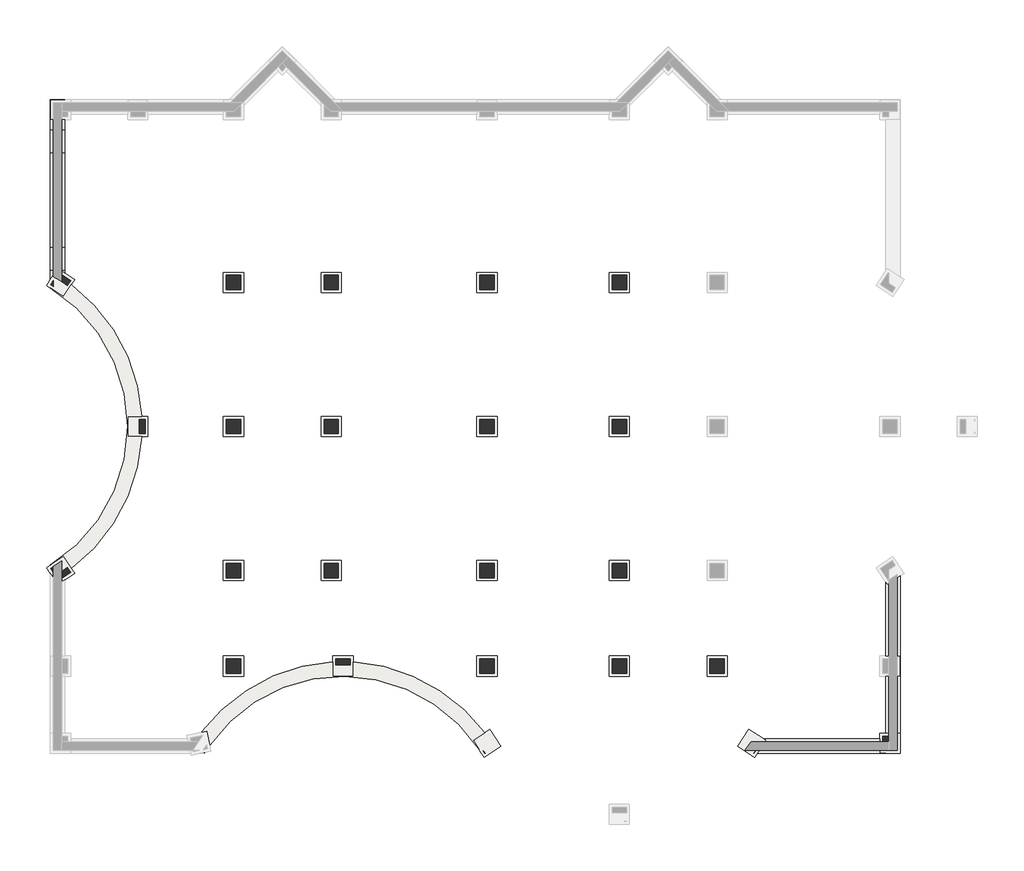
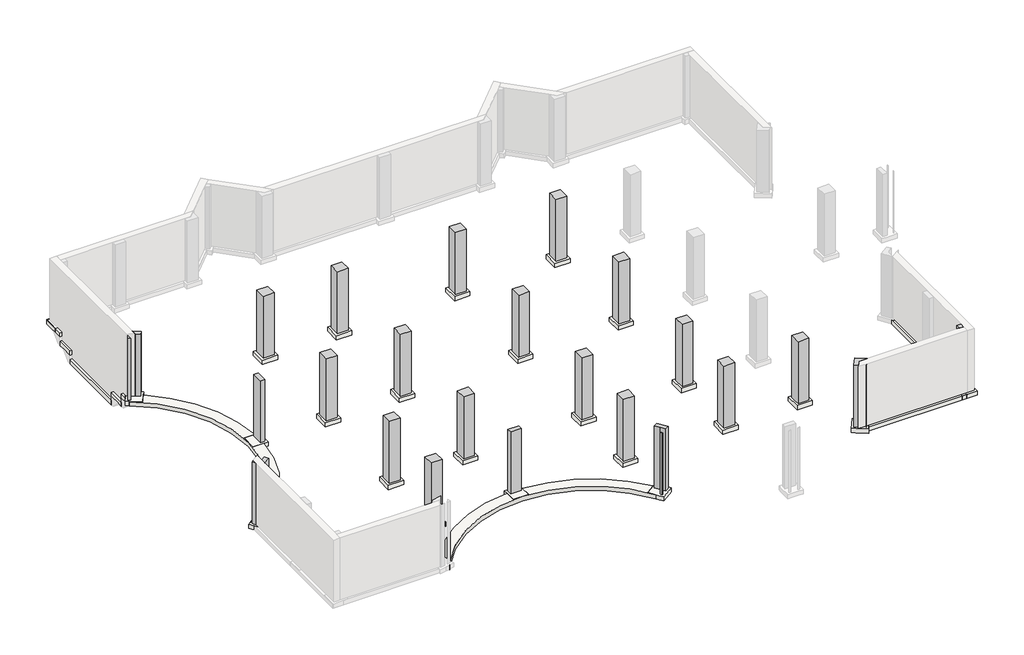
# One storey, part 2 of 3: 23 columns, 23 slabs, 5 footings.
"""IFC4 building model written with IfcOpenShell, lengths in millimetres."""

import ifcopenshell
import ifcopenshell.guid

model = None  # the IFC model being written
_history = None  # IfcOwnerHistory: only IFC2X3 demands one
_inside = {}  # id of a spatial element -> (the spatial element, [elements in it])
_under = {}  # id of a project, library or spatial element -> (it, [spatial elements below it])
_declared = {}  # id of a project -> (the project, [libraries it declares])
_typed = {}  # id of a type object -> (the type object, [elements of that type])
_made_of = {}  # id of a material, layer set ... -> (it, [elements and type objects made of it])


def new_model(schema):
    """Start an empty IFC model of exactly this schema.

    Asked for "IFC4X3", IfcOpenShell would pick the latest addendum, in which some entities
    have other attributes; the version numbers below select the first issue.
    IFC2X3 requires an IfcOwnerHistory on every rooted entity: one is made here for all.
    """
    global model, _history
    if schema == "IFC4X3":
        model = ifcopenshell.file(schema_version=(4, 3, 0, 0))
    else:
        model = ifcopenshell.file(schema=schema)
    _inside.clear()
    _under.clear()
    _declared.clear()
    _typed.clear()
    _made_of.clear()
    _history = None
    if model.schema == "IFC2X3":
        org = make("IfcOrganization", Name="unknown")
        user = make(
            "IfcPersonAndOrganization",
            ThePerson=make("IfcPerson", FamilyName="unknown"),
            TheOrganization=org,
        )
        app = make(
            "IfcApplication",
            ApplicationDeveloper=org,
            Version="unknown",
            ApplicationFullName="unknown",
            ApplicationIdentifier="unknown",
        )
        _history = make(
            "IfcOwnerHistory",
            OwningUser=user,
            OwningApplication=app,
            ChangeAction="ADDED",
            CreationDate=0,
        )
    return model


def make(cls, **values):
    """One entity of the class cls with the attributes given. An attribute that is None is left unset."""
    return model.create_entity(
        cls, **{name: value for name, value in values.items() if value is not None}
    )


def rooted(cls, **values):
    """An entity with a GlobalId (a new one), such as an element, a storey or a relation."""
    return make(cls, GlobalId=ifcopenshell.guid.new(), OwnerHistory=_history, **values)


def si_unit(unit_type, name, prefix=None):
    """IfcSIUnit, for example si_unit("LENGTHUNIT", "METRE", prefix="MILLI")."""
    return make("IfcSIUnit", UnitType=unit_type, Prefix=prefix, Name=name)


def assignment(units):
    """IfcUnitAssignment: the units of a project."""
    return None if units is None else make("IfcUnitAssignment", Units=units)


def point(xyz):
    """IfcCartesianPoint."""
    return None if xyz is None else make("IfcCartesianPoint", Coordinates=xyz)


def direction(xyz):
    """IfcDirection."""
    return None if xyz is None else make("IfcDirection", DirectionRatios=xyz)


def frame(location, z_axis=None, x_axis=None):
    """IfcAxis2Placement3D, a coordinate frame: its origin and axes. An axis left out is left unset."""
    return make(
        "IfcAxis2Placement3D",
        Location=point(location),
        Axis=direction(z_axis),
        RefDirection=direction(x_axis),
    )


def frame_2d(location, x_axis=None):
    """IfcAxis2Placement2D, a coordinate frame in the plane: its origin and x axis."""
    return make(
        "IfcAxis2Placement2D", Location=point(location), RefDirection=direction(x_axis)
    )


def origin():
    """The frame at (0, 0, 0) with its axes left unset."""
    return frame((0.0, 0.0, 0.0))


def place(relative_to, where):
    """IfcLocalPlacement: puts the frame where relative to a parent placement (None: the world)."""
    return make(
        "IfcLocalPlacement", PlacementRelTo=relative_to, RelativePlacement=where
    )


def context(
    kind, dimensions, precision=None, world=None, true_north=None, identifier=None
):
    """IfcGeometricRepresentationContext, for example the 3D "Model" context."""
    return make(
        "IfcGeometricRepresentationContext",
        ContextIdentifier=identifier,
        ContextType=kind,
        CoordinateSpaceDimension=dimensions,
        Precision=precision,
        WorldCoordinateSystem=world,
        TrueNorth=true_north,
    )


def project(units=None, contexts=None):
    """IfcProject with its units and contexts."""
    return rooted(
        "IfcProject",
        Name="project",
        RepresentationContexts=contexts,
        UnitsInContext=assignment(units),
    )


def spatial(cls, under=None, at=None, **own):
    """A site, building, storey or space (cls), placed at a placement, below another one or the project."""
    s = rooted(cls, ObjectPlacement=at, **own)
    if under is not None:
        _under.setdefault(under.id(), (under, []))[1].append(s)
    return s


def polyline(points):
    """IfcPolyline through the points."""
    return make("IfcPolyline", Points=[point(p) for p in points])


def circle_curve(where, radius):
    """IfcCircle in the frame where."""
    return make("IfcCircle", Position=where, Radius=radius)


def trimmed(basis, trim1, trim2, sense, master):
    """IfcTrimmedCurve: the piece of a basis curve between two trims."""
    return make(
        "IfcTrimmedCurve",
        BasisCurve=basis,
        Trim1=trim1,
        Trim2=trim2,
        SenseAgreement=sense,
        MasterRepresentation=master,
    )


def segment(curve, same_sense, transition):
    """IfcCompositeCurveSegment."""
    return make(
        "IfcCompositeCurveSegment",
        Transition=transition,
        SameSense=same_sense,
        ParentCurve=curve,
    )


def composite_curve(segments, self_intersect=None):
    """IfcCompositeCurve: segments joined end to end."""
    return make("IfcCompositeCurve", Segments=segments, SelfIntersect=self_intersect)


def outline(outer, holes=None, kind="AREA"):
    """IfcArbitraryClosedProfileDef: a profile drawn as a closed curve; with holes, ...WithVoids."""
    if holes is None:
        return make("IfcArbitraryClosedProfileDef", ProfileType=kind, OuterCurve=outer)
    return make(
        "IfcArbitraryProfileDefWithVoids",
        ProfileType=kind,
        OuterCurve=outer,
        InnerCurves=holes,
    )


def extrude(swept, where, along, depth):
    """IfcExtrudedAreaSolid: the profile swept, set in the frame where, extruded along a direction by depth."""
    return make(
        "IfcExtrudedAreaSolid",
        SweptArea=swept,
        Position=where,
        ExtrudedDirection=direction(along),
        Depth=depth,
    )


def faces_of(points, faces, orient=None, outer=None):
    """IfcFace entities. A face is a list of loops; a loop is a list of indices into points, from 0.

    orient and outer hold one flag for each loop. By default every Orientation is true, the
    first loop of a face is its IfcFaceOuterBound and the others are IfcFaceBound.
    """
    made = []
    for i, loops in enumerate(faces):
        bounds = []
        for j, loop in enumerate(loops):
            is_outer = j == 0 if outer is None else outer[i][j]
            bounds.append(
                make(
                    "IfcFaceOuterBound" if is_outer else "IfcFaceBound",
                    Bound=make("IfcPolyLoop", Polygon=[points[k] for k in loop]),
                    Orientation=True if orient is None else orient[i][j],
                )
            )
        made.append(make("IfcFace", Bounds=bounds))
    return made


def faceted_brep(points, faces, orient=None, outer=None, voids=None):
    """IfcFacetedBrep: a solid bounded by flat faces; with voids (closed shells), ...WithVoids."""
    shared = [point(p) for p in points]
    hull = make("IfcClosedShell", CfsFaces=faces_of(shared, faces, orient, outer))
    if voids is None:
        return make("IfcFacetedBrep", Outer=hull)
    return make(
        "IfcFacetedBrepWithVoids",
        Outer=hull,
        Voids=[
            make(cls, CfsFaces=faces_of(shared, fs, o, b)) for cls, fs, o, b in voids
        ],
    )


def shape(context_of_items, identifier, shape_type, items):
    """IfcShapeRepresentation: the items that make up one representation, for example the "Body"."""
    return make(
        "IfcShapeRepresentation",
        ContextOfItems=context_of_items,
        RepresentationIdentifier=identifier,
        RepresentationType=shape_type,
        Items=items,
    )


def source(mapping_origin, context_of_items, identifier, shape_type, items):
    """IfcRepresentationMap: a shape defined once, which mapped items show again and again."""
    return make(
        "IfcRepresentationMap",
        MappingOrigin=mapping_origin,
        MappedRepresentation=shape(context_of_items, identifier, shape_type, items),
    )


def transform(
    local_origin,
    x_axis=None,
    y_axis=None,
    z_axis=None,
    scale=None,
    scale2=None,
    scale3=None,
    uniform=True,
):
    """IfcCartesianTransformationOperator3D, or its non-uniform kind. x_axis, y_axis, z_axis: its Axis1, 2, 3."""
    if uniform:
        return make(
            "IfcCartesianTransformationOperator3D",
            Axis1=direction(x_axis),
            Axis2=direction(y_axis),
            LocalOrigin=point(local_origin),
            Scale=scale,
            Axis3=direction(z_axis),
        )
    return make(
        "IfcCartesianTransformationOperator3DnonUniform",
        Axis1=direction(x_axis),
        Axis2=direction(y_axis),
        LocalOrigin=point(local_origin),
        Scale=scale,
        Axis3=direction(z_axis),
        Scale2=scale2,
        Scale3=scale3,
    )


def mapped(mapping_source, mapping_target):
    """IfcMappedItem: shows the shape of a source again, moved by a transform."""
    return make(
        "IfcMappedItem", MappingSource=mapping_source, MappingTarget=mapping_target
    )


def made_of(thing, what):
    """Note that an element or type object is made of a material, layer set ...; save() writes the relation."""
    if what is not None:
        _made_of.setdefault(what.id(), (what, []))[1].append(thing)
    return thing


def element(
    cls,
    number,
    at=None,
    inside=None,
    cuts=None,
    type_object=None,
    material=None,
    context=None,
    identifier="Body",
    shape_type=None,
    held_by="IfcProductDefinitionShape",
    body=None,
    shapes=None,
    **own,
):
    """One element of the class cls, such as IfcWall. Its Tag is "e" and its number.

    at: its placement. inside: the storey or other place that contains it. cuts: it is an
    opening in that element (IfcRelVoidsElement). A single representation is given by context,
    identifier, shape_type and body (its items); several are given by shapes. held_by: the class
    of the entity that holds the representations. save() writes the other relations.
    """
    e = rooted(cls, Tag="e%d" % number, ObjectPlacement=at, **own)
    if body is not None:
        shapes = [shape(context, identifier, shape_type, body)]
    if shapes is not None:
        e.Representation = make(held_by, Representations=shapes)
    if inside is not None:
        _inside.setdefault(inside.id(), (inside, []))[1].append(e)
    if cuts is not None:
        rooted(
            "IfcRelVoidsElement", RelatingBuildingElement=cuts, RelatedOpeningElement=e
        )
    if type_object is not None:
        _typed.setdefault(type_object.id(), (type_object, []))[1].append(e)
    return made_of(e, material)


def aggregate(whole, parts):
    """IfcRelAggregates: a whole, such as a stair, and the parts it consists of."""
    return rooted("IfcRelAggregates", RelatingObject=whole, RelatedObjects=parts)


def save(model, path):
    """Write the relations noted so far, then the file.

    IfcRelAggregates (storeys below a building ...), IfcRelContainedInSpatialStructure (elements
    in a storey), IfcRelDefinesByType, IfcRelAssociatesMaterial and IfcRelDeclares: one each for
    every whole, place, type object, material and project.
    """
    for whole, parts in _under.values():
        aggregate(whole, parts)
    for where, things in _inside.values():
        rooted(
            "IfcRelContainedInSpatialStructure",
            RelatedElements=things,
            RelatingStructure=where,
        )
    for kind, things in _typed.values():
        rooted("IfcRelDefinesByType", RelatedObjects=things, RelatingType=kind)
    for what, things in _made_of.values():
        rooted("IfcRelAssociatesMaterial", RelatedObjects=things, RelatingMaterial=what)
    for by, libraries in _declared.values():
        rooted("IfcRelDeclares", RelatingContext=by, RelatedDefinitions=libraries)
    model.write(path)


def m_concrete_rectangular_column_762_x_762mm_e00174ba(model_context):
    return source(origin(), model_context, "Body", "SweptSolid", [
        extrude(outline(polyline([(381.0, 381.0), (381.0, -381.0), (-381.0, -381.0), (-381.0, 381.0), (381.0, 381.0)])), frame((0.0, 0.0, -4572.0), z_axis=(0.0, 0.0, 1.0), x_axis=(1.0, 0.0, 0.0)), (0.0, 0.0, 1.0), 4572.0),
    ])


def m_footing_rectangular_1067_x_1067_x_305mm_e91fa160(model_context):
    return source(origin(), model_context, "Body", "SweptSolid", [
        extrude(outline(polyline([(533.5, 533.5), (533.5, -533.5), (-533.5, -533.5), (-533.5, 533.5), (533.5, 533.5)])), frame((0.0, 0.0, -305.0), z_axis=(0.0, 0.0, 1.0), x_axis=(1.0, 0.0, 0.0)), (0.0, 0.0, 1.0), 305.0),
    ])


model = new_model("IFC4")

# Units and contexts
model_context = context("Model", 3, world=origin())
ifc_project = project(units=[si_unit("LENGTHUNIT", "METRE", prefix="MILLI")], contexts=[model_context])

# Site, building, storey
site = spatial("IfcSite", under=ifc_project)
building = spatial("IfcBuilding", under=site)
storey = spatial("IfcBuildingStorey", under=building, Name="00 T.O.FOOTING", Elevation=-4572.0)

# Columns
placement = place(None, origin())
element("IfcColumn", 1, ObjectType="M_Concrete-Rectangular-Column : 762 x 762mm", at=placement, inside=storey, context=model_context, shape_type="SweptSolid", body=[
    extrude(outline(composite_curve([segment(polyline([(683.6806742, 9192.6806742), (228.5, 8890.7479726), (228.5, 9260.5379654)]), True, "CONTINUOUS"), segment(trimmed(circle_curve(frame_2d((-4898.9611805, 16919.575)), 9216.925), [point((228.5, 9260.5379654))], [point((509.0310463, 9455.9748948))], True, "CARTESIAN"), True, "CONTINUOUS"), segment(polyline([(509.0310463, 9455.9748948), (683.6806742, 9192.6806742)]), True, "CONTINUOUS")], self_intersect=False)), frame((0.0, 0.0, -4572.0), z_axis=(0.0, 0.0, 1.0), x_axis=(1.0, 0.0, 0.0)), (0.0, 0.0, 1.0), 4572.0),
    extrude(outline(polyline([(-228.5, 9189.3349146), (-372.5306742, 9406.4693258), (-228.5, 9502.0084667), (-228.5, 9189.3349146)])), frame((0.0, 0.0, -4572.0), z_axis=(0.0, 0.0, 1.0), x_axis=(1.0, 0.0, 0.0)), (0.0, 0.0, 1.0), 4572.0),
])
element("IfcColumn", 2, ObjectType="M_Concrete-Rectangular-Column : 762 x 762mm", at=placement, inside=storey, context=model_context, shape_type="SweptSolid", body=[
    extrude(outline(composite_curve([segment(polyline([(4625.575, 17300.575), (4625.575, 16538.575), (4310.0857547, 16538.575)]), True, "CONTINUOUS"), segment(trimmed(circle_curve(frame_2d((-4898.9611805, 16919.575)), 9216.925), [point((4310.0857547, 16538.575))], [point((4310.0857547, 17300.575))], True, "CARTESIAN"), True, "CONTINUOUS"), segment(polyline([(4310.0857547, 17300.575), (4625.575, 17300.575)]), True, "CONTINUOUS")], self_intersect=False)), frame((0.0, 0.0, -4572.0), z_axis=(0.0, 0.0, 1.0), x_axis=(1.0, 0.0, 0.0)), (0.0, 0.0, 1.0), 4572.0),
])
element("IfcColumn", 3, ObjectType="M_Concrete-Rectangular-Column : 762 x 762mm", at=placement, inside=storey, context=model_context, shape_type="SweptSolid", body=[
    extrude(outline(polyline([(-228.5, 24337.1415333), (-372.5306742, 24432.6806742), (-228.5, 24649.8150854), (-228.5, 24337.1415333)])), frame((0.0, 0.0, -4572.0), z_axis=(0.0, 0.0, 1.0), x_axis=(1.0, 0.0, 0.0)), (0.0, 0.0, 1.0), 4572.0),
    extrude(outline(composite_curve([segment(polyline([(683.6806742, 24646.4693258), (509.0310463, 24383.1751052)]), True, "CONTINUOUS"), segment(trimmed(circle_curve(frame_2d((-4898.9611805, 16919.575)), 9216.925), [point((509.0310463, 24383.1751052))], [point((228.5, 24578.6120346))], True, "CARTESIAN"), True, "CONTINUOUS"), segment(polyline([(228.5, 24578.6120346), (228.5, 24948.4020274), (683.6806742, 24646.4693258)]), True, "CONTINUOUS")], self_intersect=False)), frame((0.0, 0.0, -4572.0), z_axis=(0.0, 0.0, 1.0), x_axis=(1.0, 0.0, 0.0)), (0.0, 0.0, 1.0), 4572.0),
])
element("IfcColumn", 4, ObjectType="M_Concrete-Rectangular-Column : 762 x 762mm", at=placement, inside=storey, context=model_context, shape_type="SweptSolid", body=[
    extrude(outline(polyline([(43646.575, 536.575), (43955.9050515, 536.575), (43955.9050515, 228.5), (43646.575, 228.5), (43646.575, 536.575)])), frame((0.0, 0.0, -4572.0), z_axis=(0.0, 0.0, 1.0), x_axis=(1.0, 0.0, 0.0)), (0.0, 0.0, 1.0), 4572.0),
])
element("IfcColumn", 5, ObjectType="M_Concrete-Rectangular-Column : 762 x 762mm", at=placement, inside=storey, context=model_context, shape_type="SweptSolid", body=[
    extrude(outline(composite_curve([segment(polyline([(36919.0568544, -228.5), (36823.5716175, -372.5099589), (36817.2005535, -368.28565)]), True, "CONTINUOUS"), segment(trimmed(circle_curve(frame_2d((29712.2025257, 4799.7966199)), 8785.7880309), [point((36817.2005535, -368.28565))], [point((36916.8055284, -228.5))], True, "CARTESIAN"), True, "CONTINUOUS"), segment(polyline([(36916.8055284, -228.5), (36919.0568544, -228.5)]), True, "CONTINUOUS")], self_intersect=False)), frame((0.0, 0.0, -4572.0), z_axis=(0.0, 0.0, 1.0), x_axis=(1.0, 0.0, 0.0)), (0.0, 0.0, 1.0), 4572.0),
    extrude(outline(composite_curve([segment(polyline([(36188.4900411, 48.5783825), (36609.5783825, 683.6599589), (37244.6599589, 262.5716175), (37222.0689069, 228.5), (36674.383023, 228.5)]), True, "CONTINUOUS"), segment(trimmed(circle_curve(frame_2d((29712.2025257, 4799.7966199)), 8328.7880309), [point((36674.383023, 228.5))], [point((36435.9399442, -115.4923025))], False, "CARTESIAN"), True, "CONTINUOUS"), segment(polyline([(36435.9399442, -115.4923025), (36188.4900411, 48.5783825)]), True, "CONTINUOUS")], self_intersect=False)), frame((0.0, 0.0, -4572.0), z_axis=(0.0, 0.0, 1.0), x_axis=(1.0, 0.0, 0.0)), (0.0, 0.0, 1.0), 4572.0),
])
element("IfcColumn", 6, ObjectType="M_Concrete-Rectangular-Column : 762 x 762mm", at=placement, inside=storey, context=model_context, shape_type="SweptSolid", body=[
    extrude(outline(composite_curve([segment(polyline([(22608.1376648, -369.5683097), (22603.6737252, -372.5292676), (22518.0198315, -243.3974756)]), True, "CONTINUOUS"), segment(trimmed(circle_curve(frame_2d((29712.2025257, 4799.7966199)), 8785.7880309), [point((22518.0198315, -243.3974756))], [point((22608.1376648, -369.5683097))], True, "CARTESIAN"), True, "CONTINUOUS")], self_intersect=False)), frame((0.0, 0.0, -4572.0), z_axis=(0.0, 0.0, 1.0), x_axis=(1.0, 0.0, 0.0)), (0.0, 0.0, 1.0), 4572.0),
    extrude(outline(composite_curve([segment(polyline([(22817.4762748, 683.6792676), (23238.6792676, 48.6737252), (22989.3526284, -116.7061331)]), True, "CONTINUOUS"), segment(trimmed(circle_curve(frame_2d((29712.2025257, 4799.7966199)), 8328.7880309), [point((22989.3526284, -116.7061331))], [point((22771.5458333, 195.8858105))], False, "CARTESIAN"), True, "CONTINUOUS"), segment(trimmed(circle_curve(frame_2d((15090.775, -4898.9611805)), 9216.925), [point((22771.5458333, 195.8858105))], [point((22554.3106858, 509.1199507))], True, "CARTESIAN"), True, "CONTINUOUS"), segment(polyline([(22554.3106858, 509.1199507), (22817.4762748, 683.6792676)]), True, "CONTINUOUS")], self_intersect=False)), frame((0.0, 0.0, -4572.0), z_axis=(0.0, 0.0, 1.0), x_axis=(1.0, 0.0, 0.0)), (0.0, 0.0, 1.0), 4572.0),
])
element("IfcColumn", 7, ObjectType="M_Concrete-Rectangular-Column : 762 x 762mm", at=placement, inside=storey, context=model_context, shape_type="SweptSolid", body=[
    extrude(outline(composite_curve([segment(polyline([(14709.575, 4625.575), (15471.575, 4625.575), (15471.575, 4310.094027)]), True, "CONTINUOUS"), segment(trimmed(circle_curve(frame_2d((15090.775, -4898.9611805)), 9216.925), [point((15471.575, 4310.094027))], [point((14709.575, 4310.0774781))], True, "CARTESIAN"), True, "CONTINUOUS"), segment(polyline([(14709.575, 4310.0774781), (14709.575, 4625.575)]), True, "CONTINUOUS")], self_intersect=False)), frame((0.0, 0.0, -4572.0), z_axis=(0.0, 0.0, 1.0), x_axis=(1.0, 0.0, 0.0)), (0.0, 0.0, 1.0), 4572.0),
])
m_concrete_rectangular_column_762_x_762mm_shape = m_concrete_rectangular_column_762_x_762mm_e00174ba(model_context)
element("IfcColumn", 8, ObjectType="M_Concrete-Rectangular-Column : 762 x 762mm", at=placement, inside=storey, context=model_context, shape_type="MappedRepresentation", body=[
    mapped(m_concrete_rectangular_column_762_x_762mm_shape, transform((9299.575, 24539.575, 0.0), x_axis=(1.0, 0.0, 0.0), y_axis=(0.0, 1.0, 0.0), z_axis=(0.0, 0.0, 1.0))),
])
element("IfcColumn", 9, ObjectType="M_Concrete-Rectangular-Column : 762 x 762mm", at=placement, inside=storey, context=model_context, shape_type="MappedRepresentation", body=[
    mapped(m_concrete_rectangular_column_762_x_762mm_shape, transform((9299.575, 16919.575, 0.0), x_axis=(1.0, 0.0, 0.0), y_axis=(0.0, 1.0, 0.0), z_axis=(0.0, 0.0, 1.0))),
])
element("IfcColumn", 10, ObjectType="M_Concrete-Rectangular-Column : 762 x 762mm", at=placement, inside=storey, context=model_context, shape_type="MappedRepresentation", body=[
    mapped(m_concrete_rectangular_column_762_x_762mm_shape, transform((9299.575, 9299.575, 0.0), x_axis=(1.0, 0.0, 0.0), y_axis=(0.0, 1.0, 0.0), z_axis=(0.0, 0.0, 1.0))),
])
element("IfcColumn", 11, ObjectType="M_Concrete-Rectangular-Column : 762 x 762mm", at=placement, inside=storey, context=model_context, shape_type="MappedRepresentation", body=[
    mapped(m_concrete_rectangular_column_762_x_762mm_shape, transform((9299.575, 4244.575, 0.0), x_axis=(1.0, 0.0, 0.0), y_axis=(0.0, 1.0, 0.0), z_axis=(0.0, 0.0, 1.0))),
])
element("IfcColumn", 12, ObjectType="M_Concrete-Rectangular-Column : 762 x 762mm", at=placement, inside=storey, context=model_context, shape_type="MappedRepresentation", body=[
    mapped(m_concrete_rectangular_column_762_x_762mm_shape, transform((14471.575, 24539.575, 0.0), x_axis=(1.0, 0.0, 0.0), y_axis=(0.0, 1.0, 0.0), z_axis=(0.0, 0.0, 1.0))),
])
element("IfcColumn", 13, ObjectType="M_Concrete-Rectangular-Column : 762 x 762mm", at=placement, inside=storey, context=model_context, shape_type="MappedRepresentation", body=[
    mapped(m_concrete_rectangular_column_762_x_762mm_shape, transform((14471.575, 16919.575, 0.0), x_axis=(1.0, 0.0, 0.0), y_axis=(0.0, 1.0, 0.0), z_axis=(0.0, 0.0, 1.0))),
])
element("IfcColumn", 14, ObjectType="M_Concrete-Rectangular-Column : 762 x 762mm", at=placement, inside=storey, context=model_context, shape_type="MappedRepresentation", body=[
    mapped(m_concrete_rectangular_column_762_x_762mm_shape, transform((14471.575, 9299.575, 0.0), x_axis=(1.0, 0.0, 0.0), y_axis=(0.0, 1.0, 0.0), z_axis=(0.0, 0.0, 1.0))),
])
element("IfcColumn", 15, ObjectType="M_Concrete-Rectangular-Column : 762 x 762mm", at=placement, inside=storey, context=model_context, shape_type="MappedRepresentation", body=[
    mapped(m_concrete_rectangular_column_762_x_762mm_shape, transform((22710.575, 24539.575, 0.0), x_axis=(1.0, 0.0, 0.0), y_axis=(0.0, 1.0, 0.0), z_axis=(0.0, 0.0, 1.0))),
])
element("IfcColumn", 16, ObjectType="M_Concrete-Rectangular-Column : 762 x 762mm", at=placement, inside=storey, context=model_context, shape_type="MappedRepresentation", body=[
    mapped(m_concrete_rectangular_column_762_x_762mm_shape, transform((22710.575, 16919.575, 0.0), x_axis=(1.0, 0.0, 0.0), y_axis=(0.0, 1.0, 0.0), z_axis=(0.0, 0.0, 1.0))),
])
element("IfcColumn", 17, ObjectType="M_Concrete-Rectangular-Column : 762 x 762mm", at=placement, inside=storey, context=model_context, shape_type="MappedRepresentation", body=[
    mapped(m_concrete_rectangular_column_762_x_762mm_shape, transform((22710.575, 9299.575, 0.0), x_axis=(1.0, 0.0, 0.0), y_axis=(0.0, 1.0, 0.0), z_axis=(0.0, 0.0, 1.0))),
])
element("IfcColumn", 18, ObjectType="M_Concrete-Rectangular-Column : 762 x 762mm", at=placement, inside=storey, context=model_context, shape_type="MappedRepresentation", body=[
    mapped(m_concrete_rectangular_column_762_x_762mm_shape, transform((29711.575, 24539.575, 0.0), x_axis=(1.0, 0.0, 0.0), y_axis=(0.0, 1.0, 0.0), z_axis=(0.0, 0.0, 1.0))),
])
element("IfcColumn", 19, ObjectType="M_Concrete-Rectangular-Column : 762 x 762mm", at=placement, inside=storey, context=model_context, shape_type="MappedRepresentation", body=[
    mapped(m_concrete_rectangular_column_762_x_762mm_shape, transform((29711.575, 16919.575, 0.0), x_axis=(1.0, 0.0, 0.0), y_axis=(0.0, 1.0, 0.0), z_axis=(0.0, 0.0, 1.0))),
])
element("IfcColumn", 20, ObjectType="M_Concrete-Rectangular-Column : 762 x 762mm", at=placement, inside=storey, context=model_context, shape_type="MappedRepresentation", body=[
    mapped(m_concrete_rectangular_column_762_x_762mm_shape, transform((29711.575, 9299.575, 0.0), x_axis=(1.0, 0.0, 0.0), y_axis=(0.0, 1.0, 0.0), z_axis=(0.0, 0.0, 1.0))),
])
element("IfcColumn", 21, ObjectType="M_Concrete-Rectangular-Column : 762 x 762mm", at=placement, inside=storey, context=model_context, shape_type="MappedRepresentation", body=[
    mapped(m_concrete_rectangular_column_762_x_762mm_shape, transform((22710.575, 4244.575, 0.0), x_axis=(1.0, 0.0, 0.0), y_axis=(0.0, 1.0, 0.0), z_axis=(0.0, 0.0, 1.0))),
])
element("IfcColumn", 22, ObjectType="M_Concrete-Rectangular-Column : 762 x 762mm", at=placement, inside=storey, context=model_context, shape_type="MappedRepresentation", body=[
    mapped(m_concrete_rectangular_column_762_x_762mm_shape, transform((29711.575, 4244.575, 0.0), x_axis=(1.0, 0.0, 0.0), y_axis=(0.0, 1.0, 0.0), z_axis=(0.0, 0.0, 1.0))),
])
element("IfcColumn", 23, ObjectType="M_Concrete-Rectangular-Column : 762 x 762mm", at=placement, inside=storey, context=model_context, shape_type="MappedRepresentation", body=[
    mapped(m_concrete_rectangular_column_762_x_762mm_shape, transform((34883.575, 4244.575, 0.0), x_axis=(1.0, 0.0, 0.0), y_axis=(0.0, 1.0, 0.0), z_axis=(0.0, 0.0, 1.0))),
])

# Footings
element("IfcFooting", 24, ObjectType="Bearing Footing - 762 x 305", at=placement, inside=storey, context=model_context, shape_type="SweptSolid", body=[
    extrude(outline(composite_curve([segment(trimmed(circle_curve(frame_2d((-4898.9611805, 16919.575)), 8607.425), [point((-381.0, 9593.198549))], [point((-381.0, 24245.951451))], True, "CARTESIAN"), True, "CONTINUOUS"), segment(polyline([(-381.0, 24245.951451), (-373.2506488, 24250.1582513), (305.2551124, 23800.0884457), (716.3639016, 24419.8582648)]), True, "CONTINUOUS"), segment(trimmed(circle_curve(frame_2d((-4898.9611805, 16919.575)), 9369.425), [point((716.3639016, 24419.8582648))], [point((4455.2626024, 17453.075))], False, "CARTESIAN"), True, "CONTINUOUS"), segment(polyline([(4455.2626024, 17453.075), (3711.075, 17453.075), (3711.075, 16386.075), (4455.2626024, 16386.075)]), True, "CONTINUOUS"), segment(trimmed(circle_curve(frame_2d((-4898.9611805, 16919.575)), 9369.425), [point((4455.2626024, 16386.075))], [point((716.3639016, 9419.2917352))], False, "CARTESIAN"), True, "CONTINUOUS"), segment(polyline([(716.3639016, 9419.2917352), (305.2551124, 10039.0615543), (-373.2506488, 9588.9917487), (-381.0, 9593.198549)]), True, "CONTINUOUS")], self_intersect=False)), frame((0.0, 0.0, -4877.0), z_axis=(0.0, 0.0, 1.0), x_axis=(1.0, 0.0, 0.0)), (0.0, 0.0, 1.0), 305.0),
])
element("IfcFooting", 25, ObjectType="Bearing Footing - 762 x 305", at=placement, inside=storey, context=model_context, shape_type="Brep", body=[
    faceted_brep([(-381.0, 25169.9586136, -4877.0), (-381.0, 25169.9586136, -4572.0), (-66.4758159, 25169.9586136, -4572.0), (-66.4758159, 25169.9586136, -4877.0), (-381.0, 24695.7955654, -4572.0), (-381.0, 24695.7955654, -4877.0)], [[[0, 1, 2, 3]], [[1, 4, 2]], [[1, 0, 5, 4]], [[5, 0, 3]], [[2, 4, 5, 3]]]),
    faceted_brep([(381.0, 25169.9586136, -4572.0), (381.0, 25169.9586136, -4877.0), (170.3737593, 25169.9586136, -4877.0), (170.3737593, 25169.9586136, -4572.0), (381.0, 25030.2449713, -4572.0), (381.0, 25030.2449713, -4877.0)], [[[0, 1, 2, 3]], [[4, 0, 3]], [[1, 5, 2]], [[1, 0, 4, 5]], [[4, 3, 2, 5]]]),
    faceted_brep([(-381.0, 24245.951451, -4572.0), (-373.2506488, 24250.1582513, -4572.0), (-381.0, 24255.2985894, -4572.0), (-381.0, 24245.951451, -4877.0), (-381.0, 24255.2985894, -4877.0), (-373.2506488, 24250.1582513, -4877.0)], [[[0, 1, 2]], [[3, 0, 2, 4]], [[3, 4, 5]], [[0, 3, 5, 1]], [[2, 1, 5, 4]]]),
    faceted_brep([(-377.925, 34217.075, -4877.0), (-377.925, 34217.075, -4572.0), (-377.925, 33150.075, -4572.0), (-377.925, 33150.075, -4877.0), (381.0, 33150.075, -4572.0), (381.0, 33150.075, -4877.0), (381.0, 34217.075, -4877.0), (381.0, 34217.075, -4572.0), (-381.0, 32620.15, -4572.0), (-381.0, 32620.15, -4877.0), (381.0, 32620.15, -4877.0), (381.0, 32620.15, -4572.0), (-381.0, 34220.15, -4572.0), (381.0, 34220.15, -4572.0), (-381.0, 34220.15, -4877.0), (-381.0, 33430.15, -4877.0), (381.0, 34220.15, -4877.0)], [[[0, 1, 2, 3]], [[3, 2, 4, 5]], [[1, 0, 6, 7]], [[8, 9, 10, 11]], [[12, 8, 11, 4, 2, 1, 7, 13]], [[9, 8, 12, 14, 15]], [[10, 9, 15, 14, 16, 6, 0, 3, 5]], [[11, 10, 5, 4]], [[16, 13, 7, 6]], [[12, 13, 16, 14]]]),
    faceted_brep([(-381.0, 25169.9586136, -5182.0), (-381.0, 25169.9586136, -5487.0), (381.0, 25169.9586136, -5487.0), (381.0, 25169.9586136, -5182.0), (-381.0, 26388.9586136, -5487.0), (-381.0, 26388.9586136, -5182.0), (381.0, 26388.9586136, -5182.0), (381.0, 26388.9586136, -5487.0), (-381.0, 25578.9586136, -5487.0), (381.0, 25578.9586136, -5487.0)], [[[0, 1, 2, 3]], [[4, 5, 6, 7]], [[5, 0, 3, 6]], [[1, 0, 5, 4, 8]], [[2, 1, 8, 4, 7, 9]], [[3, 2, 9, 7, 6]]]),
    faceted_brep([(-381.0, 26388.9586136, -5792.0), (-381.0, 26388.9586136, -6097.0), (381.0, 26388.9586136, -6097.0), (381.0, 26388.9586136, -5792.0), (-381.0, 31401.15, -6097.0), (-381.0, 31401.15, -5792.0), (381.0, 31401.15, -5792.0), (381.0, 31401.15, -6097.0)], [[[0, 1, 2, 3]], [[4, 5, 6, 7]], [[5, 0, 3, 6]], [[1, 0, 5, 4]], [[2, 1, 4, 7]], [[3, 2, 7, 6]]]),
    faceted_brep([(-381.0, 31401.15, -5182.0), (-381.0, 31401.15, -5487.0), (381.0, 31401.15, -5487.0), (381.0, 31401.15, -5182.0), (-381.0, 32620.15, -5487.0), (-381.0, 32620.15, -5182.0), (381.0, 32620.15, -5182.0), (381.0, 32620.15, -5487.0), (-381.0, 32211.15, -5487.0), (381.0, 32211.15, -5487.0)], [[[0, 1, 2, 3]], [[4, 5, 6, 7]], [[5, 0, 3, 6]], [[1, 0, 5, 4, 8]], [[2, 1, 8, 4, 7, 9]], [[3, 2, 9, 7, 6]]]),
])
element("IfcFooting", 26, ObjectType="Bearing Footing - 762 x 305", at=placement, inside=storey, context=model_context, shape_type="SweptSolid", body=[
    extrude(outline(polyline([(44565.4050515, -381.0), (43803.4050515, -381.0), (43803.4050515, -377.925), (44561.075, -377.925), (44561.075, 689.075), (43803.4050515, 689.075), (43803.4050515, 3711.075), (44561.075, 3711.075), (44561.075, 4778.075), (43803.4050515, 4778.075), (43803.4050515, 8672.303565), (43877.8103009, 8560.105572), (44565.4050515, 9016.0910809), (44565.4050515, -381.0)])), frame((0.0, 0.0, -4877.0), z_axis=(0.0, 0.0, 1.0), x_axis=(1.0, 0.0, 0.0)), (0.0, 0.0, 1.0), 305.0),
])
element("IfcFooting", 27, ObjectType="Bearing Footing - 762 x 305", at=placement, inside=storey, context=model_context, shape_type="SweptSolid", body=[
    extrude(outline(polyline([(43803.4050515, -377.925), (43803.4050515, -381.0), (37000.9188228, -381.0), (37456.0325475, 305.3983476), (37342.0108284, 381.0), (43494.075, 381.0), (43494.075, -377.925), (43803.4050515, -377.925)])), frame((0.0, 0.0, -4877.0), z_axis=(0.0, 0.0, 1.0), x_axis=(1.0, 0.0, 0.0)), (0.0, 0.0, 1.0), 305.0),
])
element("IfcFooting", 28, ObjectType="Bearing Footing - 762 x 305", at=placement, inside=storey, context=model_context, shape_type="SweptSolid", body=[
    extrude(outline(composite_curve([segment(polyline([(22266.0527765, -139.4203502), (22263.6291667, -141.0279911)]), True, "CONTINUOUS"), segment(trimmed(circle_curve(frame_2d((15090.775, -4898.9611805)), 8607.425), [point((22263.6291667, -141.0279911))], [point((8040.0893954, 38.2037586))], True, "CARTESIAN"), True, "CONTINUOUS"), segment(polyline([(8040.0893954, 38.2037586), (7883.7645661, 786.8585199), (7598.7213809, 727.3393268)]), True, "CONTINUOUS"), segment(trimmed(circle_curve(frame_2d((15090.775, -4898.9611805)), 9369.425), [point((7598.7213809, 727.3393268))], [point((14557.075, 4455.2511936))], False, "CARTESIAN"), True, "CONTINUOUS"), segment(polyline([(14557.075, 4455.2511936), (14557.075, 3711.075), (15624.075, 3711.075), (15624.075, 4455.2740069)]), True, "CONTINUOUS"), segment(trimmed(circle_curve(frame_2d((15090.775, -4898.9611805)), 9369.425), [point((15624.075, 4455.2740069))], [point((22590.9935606, 716.4503248))], False, "CARTESIAN"), True, "CONTINUOUS"), segment(polyline([(22590.9935606, 716.4503248), (21971.0904153, 305.2648427), (22266.0527765, -139.4203502)]), True, "CONTINUOUS")], self_intersect=False)), frame((0.0, 0.0, -4877.0), z_axis=(0.0, 0.0, 1.0), x_axis=(1.0, 0.0, 0.0)), (0.0, 0.0, 1.0), 305.0),
    extrude(outline(composite_curve([segment(trimmed(circle_curve(frame_2d((15090.775, -4898.9611805)), 8607.425), [point((7802.2589542, -320.1732425))], [point((7764.398549, -381.0))], True, "CARTESIAN"), True, "CONTINUOUS"), segment(polyline([(7764.398549, -381.0), (7738.5947592, -333.4668124), (7802.2589542, -320.1732425)]), True, "CONTINUOUS")], self_intersect=False)), frame((0.0, 0.0, -4877.0), z_axis=(0.0, 0.0, 1.0), x_axis=(1.0, 0.0, 0.0)), (0.0, 0.0, 1.0), 305.0),
])

# Slabs
element("IfcSlab", 29, ObjectType="M_Footing-Rectangular : 1067 x 1067 x 305mm", at=placement, inside=storey, context=model_context, shape_type="Brep", body=[
    faceted_brep([(895.0615543, 9149.8948876, -4572.0), (716.3639016, 9419.2917352, -4572.0), (305.2551124, 10039.0615543, -4572.0), (-373.2506488, 9588.9917487, -4572.0), (-381.0, 9583.8514106, -4572.0), (-583.9115543, 9449.2551124, -4572.0), (-381.0, 9143.3544346, -4572.0), (5.8948876, 8560.0884457, -4572.0), (381.0, 8808.9050287, -4572.0), (895.0615543, 9149.8948876, -4877.0), (381.0, 8808.9050287, -4877.0), (5.8948876, 8560.0884457, -4877.0), (-381.0, 9143.3544346, -4877.0), (-583.9115543, 9449.2551124, -4877.0), (-381.0, 9583.8514106, -4877.0), (-373.2506488, 9588.9917487, -4877.0), (305.2551124, 10039.0615543, -4877.0), (716.3639016, 9419.2917352, -4877.0)], [[[0, 1, 2, 3, 4, 5, 6, 7, 8]], [[9, 10, 11, 12, 13, 14, 15, 16, 17]], [[2, 1, 0, 9, 17, 16]], [[5, 4, 3, 2, 16, 15, 14, 13]], [[7, 6, 5, 13, 12, 11]], [[0, 8, 7, 11, 10, 9]]]),
])
element("IfcSlab", 30, ObjectType="M_Footing-Rectangular : 1067 x 1067 x 305mm", at=placement, inside=storey, context=model_context, shape_type="Brep", body=[
    faceted_brep([(4778.075, 17453.075, -4572.0), (4455.2626024, 17453.075, -4572.0), (3711.075, 17453.075, -4572.0), (3711.075, 16386.075, -4572.0), (4455.2626024, 16386.075, -4572.0), (4778.075, 16386.075, -4572.0), (4778.075, 17453.075, -4877.0), (4778.075, 16386.075, -4877.0), (4455.2626024, 16386.075, -4877.0), (3711.075, 16386.075, -4877.0), (3711.075, 17453.075, -4877.0), (4455.2626024, 17453.075, -4877.0)], [[[0, 1, 2, 3, 4, 5]], [[6, 7, 8, 9, 10, 11]], [[2, 1, 0, 6, 11, 10]], [[3, 2, 10, 9]], [[5, 4, 3, 9, 8, 7]], [[0, 5, 7, 6]]]),
])
element("IfcSlab", 31, ObjectType="M_Footing-Rectangular : 1067 x 1067 x 305mm", at=placement, inside=storey, context=model_context, shape_type="Brep", body=[
    faceted_brep([(5.8948876, 25279.0615543, -4572.0), (-66.4758159, 25169.9586136, -4572.0), (-381.0, 24695.7955654, -4572.0), (-583.9115543, 24389.8948876, -4572.0), (-381.0, 24255.2985894, -4572.0), (-373.2506488, 24250.1582513, -4572.0), (305.2551124, 23800.0884457, -4572.0), (716.3639016, 24419.8582648, -4572.0), (895.0615543, 24689.2551124, -4572.0), (381.0, 25030.2449713, -4572.0), (170.3737593, 25169.9586136, -4572.0), (5.8948876, 25279.0615543, -4877.0), (170.3737593, 25169.9586136, -4877.0), (381.0, 25030.2449713, -4877.0), (895.0615543, 24689.2551124, -4877.0), (716.3639016, 24419.8582648, -4877.0), (305.2551124, 23800.0884457, -4877.0), (-373.2506488, 24250.1582513, -4877.0), (-381.0, 24255.2985894, -4877.0), (-583.9115543, 24389.8948876, -4877.0), (-381.0, 24695.7955654, -4877.0), (-66.4758159, 25169.9586136, -4877.0)], [[[0, 1, 2, 3, 4, 5, 6, 7, 8, 9, 10]], [[11, 12, 13, 14, 15, 16, 17, 18, 19, 20, 21]], [[3, 2, 1, 0, 11, 21, 20, 19]], [[6, 5, 4, 3, 19, 18, 17, 16]], [[8, 7, 6, 16, 15, 14]], [[0, 10, 9, 8, 14, 13, 12, 11]]]),
])
element("IfcSlab", 32, ObjectType="M_Footing-Rectangular : 1067 x 1067 x 305mm", at=placement, inside=storey, context=model_context, shape_type="Brep", body=[
    faceted_brep([(43494.075, -377.925, -4572.0), (43803.4050515, -377.925, -4572.0), (44561.075, -377.925, -4572.0), (44561.075, 689.075, -4572.0), (43803.4050515, 689.075, -4572.0), (43494.075, 689.075, -4572.0), (43494.075, 381.0, -4572.0), (43494.075, -377.925, -4877.0), (43494.075, 381.0, -4877.0), (43494.075, 689.075, -4877.0), (43803.4050515, 689.075, -4877.0), (44561.075, 689.075, -4877.0), (44561.075, -377.925, -4877.0), (43803.4050515, -377.925, -4877.0)], [[[0, 1, 2, 3, 4, 5, 6]], [[7, 8, 9, 10, 11, 12, 13]], [[2, 1, 0, 7, 13, 12]], [[3, 2, 12, 11]], [[5, 4, 3, 11, 10, 9]], [[0, 6, 5, 9, 8, 7]]]),
])
element("IfcSlab", 33, ObjectType="M_Footing-Rectangular : 1067 x 1067 x 305mm", at=placement, inside=storey, context=model_context, shape_type="Brep", body=[
    faceted_brep([(36866.3983476, -583.8825475, -4572.0), (37000.9188228, -381.0, -4572.0), (37456.0325475, 305.3983476, -4572.0), (37342.0108284, 381.0, -4572.0), (36566.7516524, 895.0325475, -4572.0), (35977.1174525, 5.7516524, -4572.0), (36217.3123113, -153.508604, -4572.0), (36853.6342028, -575.4193315, -4572.0), (36866.3983476, -583.8825475, -4877.0), (36853.6342028, -575.4193315, -4877.0), (36217.3123113, -153.508604, -4877.0), (35977.1174525, 5.7516524, -4877.0), (36566.7516524, 895.0325475, -4877.0), (37342.0108284, 381.0, -4877.0), (37456.0325475, 305.3983476, -4877.0), (37000.9188228, -381.0, -4877.0)], [[[0, 1, 2, 3, 4, 5, 6, 7]], [[8, 9, 10, 11, 12, 13, 14, 15]], [[2, 1, 0, 8, 15, 14]], [[4, 3, 2, 14, 13, 12]], [[5, 4, 12, 11]], [[0, 7, 6, 5, 11, 10, 9, 8]]]),
])
element("IfcSlab", 34, ObjectType="M_Footing-Rectangular : 1067 x 1067 x 305mm", at=placement, inside=storey, context=model_context, shape_type="Brep", body=[
    faceted_brep([(21971.0904153, 305.2648427, -4572.0), (22266.0527765, -139.4203502, -4572.0), (22392.0152956, -329.3214172, -4572.0), (22560.8851573, -583.9095847, -4572.0), (22571.7414122, -576.7085655, -4572.0), (23207.9871212, -154.6829627, -4572.0), (23450.0595847, 5.8851573, -4572.0), (22860.2648427, 895.0595847, -4572.0), (22590.9935606, 716.4503248, -4572.0), (21971.0904153, 305.2648427, -4877.0), (22590.9935606, 716.4503248, -4877.0), (22860.2648427, 895.0595847, -4877.0), (23450.0595847, 5.8851573, -4877.0), (23207.9871212, -154.6829627, -4877.0), (22571.7414122, -576.7085655, -4877.0), (22560.8851573, -583.9095847, -4877.0), (22392.0152956, -329.3214172, -4877.0), (22266.0527765, -139.4203502, -4877.0)], [[[0, 1, 2, 3, 4, 5, 6, 7, 8]], [[9, 10, 11, 12, 13, 14, 15, 16, 17]], [[3, 2, 1, 0, 9, 17, 16, 15]], [[6, 5, 4, 3, 15, 14, 13, 12]], [[7, 6, 12, 11]], [[0, 8, 7, 11, 10, 9]]]),
])
element("IfcSlab", 35, ObjectType="M_Footing-Rectangular : 1067 x 1067 x 305mm", at=placement, inside=storey, context=model_context, shape_type="Brep", body=[
    faceted_brep([(15624.075, 4778.075, -4572.0), (14557.075, 4778.075, -4572.0), (14557.075, 4455.2511936, -4572.0), (14557.075, 3711.075, -4572.0), (15624.075, 3711.075, -4572.0), (15624.075, 4455.2740069, -4572.0), (15624.075, 4778.075, -4877.0), (15624.075, 4455.2740069, -4877.0), (15624.075, 3711.075, -4877.0), (14557.075, 3711.075, -4877.0), (14557.075, 4455.2511936, -4877.0), (14557.075, 4778.075, -4877.0)], [[[0, 1, 2, 3, 4, 5]], [[6, 7, 8, 9, 10, 11]], [[1, 0, 6, 11]], [[3, 2, 1, 11, 10, 9]], [[4, 3, 9, 8]], [[0, 5, 4, 8, 7, 6]]]),
])
m_footing_rectangular_1067_x_1067_x_305mm_shape = m_footing_rectangular_1067_x_1067_x_305mm_e91fa160(model_context)
element("IfcSlab", 36, ObjectType="M_Footing-Rectangular : 1067 x 1067 x 305mm", at=placement, inside=storey, context=model_context, shape_type="MappedRepresentation", body=[
    mapped(m_footing_rectangular_1067_x_1067_x_305mm_shape, transform((9299.575, 24539.575, -4572.0), x_axis=(1.0, 0.0, 0.0), y_axis=(0.0, 1.0, 0.0), z_axis=(0.0, 0.0, 1.0))),
])
element("IfcSlab", 37, ObjectType="M_Footing-Rectangular : 1067 x 1067 x 305mm", at=placement, inside=storey, context=model_context, shape_type="MappedRepresentation", body=[
    mapped(m_footing_rectangular_1067_x_1067_x_305mm_shape, transform((9299.575, 16919.575, -4572.0), x_axis=(1.0, 0.0, 0.0), y_axis=(0.0, 1.0, 0.0), z_axis=(0.0, 0.0, 1.0))),
])
element("IfcSlab", 38, ObjectType="M_Footing-Rectangular : 1067 x 1067 x 305mm", at=placement, inside=storey, context=model_context, shape_type="MappedRepresentation", body=[
    mapped(m_footing_rectangular_1067_x_1067_x_305mm_shape, transform((9299.575, 9299.575, -4572.0), x_axis=(1.0, 0.0, 0.0), y_axis=(0.0, 1.0, 0.0), z_axis=(0.0, 0.0, 1.0))),
])
element("IfcSlab", 39, ObjectType="M_Footing-Rectangular : 1067 x 1067 x 305mm", at=placement, inside=storey, context=model_context, shape_type="MappedRepresentation", body=[
    mapped(m_footing_rectangular_1067_x_1067_x_305mm_shape, transform((9299.575, 4244.575, -4572.0), x_axis=(1.0, 0.0, 0.0), y_axis=(0.0, 1.0, 0.0), z_axis=(0.0, 0.0, 1.0))),
])
element("IfcSlab", 40, ObjectType="M_Footing-Rectangular : 1067 x 1067 x 305mm", at=placement, inside=storey, context=model_context, shape_type="MappedRepresentation", body=[
    mapped(m_footing_rectangular_1067_x_1067_x_305mm_shape, transform((14471.575, 24539.575, -4572.0), x_axis=(1.0, 0.0, 0.0), y_axis=(0.0, 1.0, 0.0), z_axis=(0.0, 0.0, 1.0))),
])
element("IfcSlab", 41, ObjectType="M_Footing-Rectangular : 1067 x 1067 x 305mm", at=placement, inside=storey, context=model_context, shape_type="MappedRepresentation", body=[
    mapped(m_footing_rectangular_1067_x_1067_x_305mm_shape, transform((14471.575, 16919.575, -4572.0), x_axis=(1.0, 0.0, 0.0), y_axis=(0.0, 1.0, 0.0), z_axis=(0.0, 0.0, 1.0))),
])
element("IfcSlab", 42, ObjectType="M_Footing-Rectangular : 1067 x 1067 x 305mm", at=placement, inside=storey, context=model_context, shape_type="MappedRepresentation", body=[
    mapped(m_footing_rectangular_1067_x_1067_x_305mm_shape, transform((14471.575, 9299.575, -4572.0), x_axis=(1.0, 0.0, 0.0), y_axis=(0.0, 1.0, 0.0), z_axis=(0.0, 0.0, 1.0))),
])
element("IfcSlab", 43, ObjectType="M_Footing-Rectangular : 1067 x 1067 x 305mm", at=placement, inside=storey, context=model_context, shape_type="MappedRepresentation", body=[
    mapped(m_footing_rectangular_1067_x_1067_x_305mm_shape, transform((22710.575, 24539.575, -4572.0), x_axis=(1.0, 0.0, 0.0), y_axis=(0.0, 1.0, 0.0), z_axis=(0.0, 0.0, 1.0))),
])
element("IfcSlab", 44, ObjectType="M_Footing-Rectangular : 1067 x 1067 x 305mm", at=placement, inside=storey, context=model_context, shape_type="MappedRepresentation", body=[
    mapped(m_footing_rectangular_1067_x_1067_x_305mm_shape, transform((22710.575, 16919.575, -4572.0), x_axis=(1.0, 0.0, 0.0), y_axis=(0.0, 1.0, 0.0), z_axis=(0.0, 0.0, 1.0))),
])
element("IfcSlab", 45, ObjectType="M_Footing-Rectangular : 1067 x 1067 x 305mm", at=placement, inside=storey, context=model_context, shape_type="MappedRepresentation", body=[
    mapped(m_footing_rectangular_1067_x_1067_x_305mm_shape, transform((22710.575, 9299.575, -4572.0), x_axis=(1.0, 0.0, 0.0), y_axis=(0.0, 1.0, 0.0), z_axis=(0.0, 0.0, 1.0))),
])
element("IfcSlab", 46, ObjectType="M_Footing-Rectangular : 1067 x 1067 x 305mm", at=placement, inside=storey, context=model_context, shape_type="MappedRepresentation", body=[
    mapped(m_footing_rectangular_1067_x_1067_x_305mm_shape, transform((29711.575, 24539.575, -4572.0), x_axis=(1.0, 0.0, 0.0), y_axis=(0.0, 1.0, 0.0), z_axis=(0.0, 0.0, 1.0))),
])
element("IfcSlab", 47, ObjectType="M_Footing-Rectangular : 1067 x 1067 x 305mm", at=placement, inside=storey, context=model_context, shape_type="MappedRepresentation", body=[
    mapped(m_footing_rectangular_1067_x_1067_x_305mm_shape, transform((29711.575, 16919.575, -4572.0), x_axis=(1.0, 0.0, 0.0), y_axis=(0.0, 1.0, 0.0), z_axis=(0.0, 0.0, 1.0))),
])
element("IfcSlab", 48, ObjectType="M_Footing-Rectangular : 1067 x 1067 x 305mm", at=placement, inside=storey, context=model_context, shape_type="MappedRepresentation", body=[
    mapped(m_footing_rectangular_1067_x_1067_x_305mm_shape, transform((29711.575, 9299.575, -4572.0), x_axis=(1.0, 0.0, 0.0), y_axis=(0.0, 1.0, 0.0), z_axis=(0.0, 0.0, 1.0))),
])
element("IfcSlab", 49, ObjectType="M_Footing-Rectangular : 1067 x 1067 x 305mm", at=placement, inside=storey, context=model_context, shape_type="MappedRepresentation", body=[
    mapped(m_footing_rectangular_1067_x_1067_x_305mm_shape, transform((22710.575, 4244.575, -4572.0), x_axis=(1.0, 0.0, 0.0), y_axis=(0.0, 1.0, 0.0), z_axis=(0.0, 0.0, 1.0))),
])
element("IfcSlab", 50, ObjectType="M_Footing-Rectangular : 1067 x 1067 x 305mm", at=placement, inside=storey, context=model_context, shape_type="MappedRepresentation", body=[
    mapped(m_footing_rectangular_1067_x_1067_x_305mm_shape, transform((29711.575, 4244.575, -4572.0), x_axis=(1.0, 0.0, 0.0), y_axis=(0.0, 1.0, 0.0), z_axis=(0.0, 0.0, 1.0))),
])
element("IfcSlab", 51, ObjectType="M_Footing-Rectangular : 1067 x 1067 x 305mm", at=placement, inside=storey, context=model_context, shape_type="MappedRepresentation", body=[
    mapped(m_footing_rectangular_1067_x_1067_x_305mm_shape, transform((34883.575, 4244.575, -4572.0), x_axis=(1.0, 0.0, 0.0), y_axis=(0.0, 1.0, 0.0), z_axis=(0.0, 0.0, 1.0))),
])

save(model, "model.ifc")
